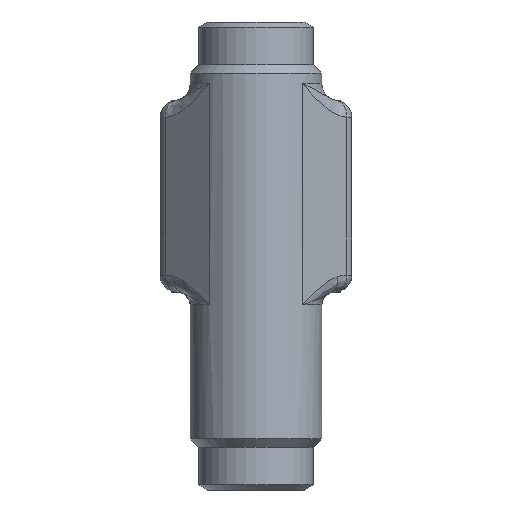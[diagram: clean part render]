
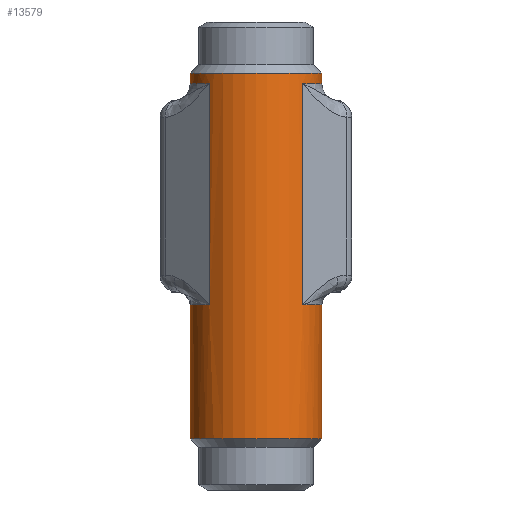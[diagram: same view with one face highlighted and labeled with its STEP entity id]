
A CAD part, front view. The second image highlights one B-rep face of the part: STEP entity #13579.
In plain terms, the highlighted cylindrical face has radius 15.5 mm (diameter 31 mm), a partial arc.
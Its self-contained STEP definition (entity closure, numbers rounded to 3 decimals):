
#16437 = CARTESIAN_POINT ( 'NONE',  ( 15.5, 0., 6.5 ) ) ;
#16578 = ORIENTED_EDGE ( 'NONE', *, *, #3100, .F. ) ;
#16628 = LINE ( 'NONE', #16629, #16630 ) ;
#16629 = CARTESIAN_POINT ( 'NONE',  ( 15.5, 0., -69.245 ) ) ;
#16630 = VECTOR ( 'NONE', #16631, 1000. ) ;
#16631 = DIRECTION ( 'NONE',  ( 0., 0., -1. ) ) ;
#16776 = VERTEX_POINT ( 'NONE', #2817 ) ;
#17004 = LINE ( 'NONE', #17005, #17006 ) ;
#17005 = CARTESIAN_POINT ( 'NONE',  ( -15.5, 0., -45. ) ) ;
#17006 = VECTOR ( 'NONE', #17007, 1000. ) ;
#17007 = DIRECTION ( 'NONE',  ( 0., 0., 1. ) ) ;
#774 = EDGE_CURVE ( 'NONE', #960, #5855, #14391, .T. ) ;
#907 = EDGE_CURVE ( 'NONE', #13567, #9898, #14472, .T. ) ;
#960 = VERTEX_POINT ( 'NONE', #14491 ) ;
#1162 = EDGE_CURVE ( 'NONE', #13567, #16776, #14619, .T. ) ;
#1273 = EDGE_CURVE ( 'NONE', #11527, #1928, #14709, .T. ) ;
#1363 = ORIENTED_EDGE ( 'NONE', *, *, #1273, .T. ) ;
#1670 = ORIENTED_EDGE ( 'NONE', *, *, #13631, .T. ) ;
#1926 = VERTEX_POINT ( 'NONE', #15090 ) ;
#1928 = VERTEX_POINT ( 'NONE', #15092 ) ;
#1929 = ORIENTED_EDGE ( 'NONE', *, *, #4030, .T. ) ;
#2060 = ORIENTED_EDGE ( 'NONE', *, *, #6123, .T. ) ;
#2116 = VERTEX_POINT ( 'NONE', #15254 ) ;
#2476 = CIRCLE ( 'NONE', #2477, 15.5 ) ;
#2477 = AXIS2_PLACEMENT_3D ( 'NONE', #2478, #2479, #2480 ) ;
#2478 = CARTESIAN_POINT ( 'NONE',  ( 0., 0., 4. ) ) ;
#2479 = DIRECTION ( 'NONE',  ( 0., 0., 1. ) ) ;
#2480 = DIRECTION ( 'NONE',  ( 1., 0., 0. ) ) ;
#2543 = ORIENTED_EDGE ( 'NONE', *, *, #16098, .F. ) ;
#2784 = CIRCLE ( 'NONE', #2785, 15.5 ) ;
#2785 = AXIS2_PLACEMENT_3D ( 'NONE', #2786, #2787, #2788 ) ;
#2786 = CARTESIAN_POINT ( 'NONE',  ( 0., 0., 6.5 ) ) ;
#2787 = DIRECTION ( 'NONE',  ( 0., 0., -1. ) ) ;
#2788 = DIRECTION ( 'NONE',  ( 1., 0., 0. ) ) ;
#2817 = CARTESIAN_POINT ( 'NONE',  ( -15.5, 0., -48. ) ) ;
#2901 = VERTEX_POINT ( 'NONE', #16328 ) ;
#3100 = EDGE_CURVE ( 'NONE', #2901, #5855, #16628, .T. ) ;
#3156 = ORIENTED_EDGE ( 'NONE', *, *, #1162, .T. ) ;
#3608 = ORIENTED_EDGE ( 'NONE', *, *, #774, .T. ) ;
#4030 = EDGE_CURVE ( 'NONE', #12136, #1926, #2784, .T. ) ;
#4124 = ORIENTED_EDGE ( 'NONE', *, *, #907, .F. ) ;
#5035 = VERTEX_POINT ( 'NONE', #5679 ) ;
#5126 = ORIENTED_EDGE ( 'NONE', *, *, #5925, .T. ) ;
#5634 = CARTESIAN_POINT ( 'NONE',  ( -10.96, -10.96, -48. ) ) ;
#5673 = FACE_OUTER_BOUND ( 'NONE', #8678, .T. ) ;
#5674 = CYLINDRICAL_SURFACE ( 'NONE', #5675, 15.5 ) ;
#5675 = AXIS2_PLACEMENT_3D ( 'NONE', #5676, #5677, #5678 ) ;
#5676 = CARTESIAN_POINT ( 'NONE',  ( 0., 0., -45. ) ) ;
#5677 = DIRECTION ( 'NONE',  ( 0., 0., 1. ) ) ;
#5678 = DIRECTION ( 'NONE',  ( 1., 0., 0. ) ) ;
#5679 = CARTESIAN_POINT ( 'NONE',  ( -15.5, 0., -69.245 ) ) ;
#5855 = VERTEX_POINT ( 'NONE', #10030 ) ;
#5925 = EDGE_CURVE ( 'NONE', #11134, #9898, #10145, .T. ) ;
#6123 = EDGE_CURVE ( 'NONE', #2116, #12136, #10249, .T. ) ;
#6786 = EDGE_CURVE ( 'NONE', #2901, #11527, #12817, .T. ) ;
#6878 = ORIENTED_EDGE ( 'NONE', *, *, #6786, .T. ) ;
#8276 = LINE ( 'NONE', #8277, #8278 ) ;
#8277 = CARTESIAN_POINT ( 'NONE',  ( -15.5, 0., -69.245 ) ) ;
#8278 = VECTOR ( 'NONE', #8279, 1000. ) ;
#8279 = DIRECTION ( 'NONE',  ( 0., 0., -1. ) ) ;
#8321 = EDGE_CURVE ( 'NONE', #1928, #2116, #2476, .T. ) ;
#8410 = ORIENTED_EDGE ( 'NONE', *, *, #8321, .T. ) ;
#8678 = EDGE_LOOP ( 'NONE', ( #2543, #13637, #3608, #16578, #6878, #1363, #8410, #2060, #1929, #9811, #5126, #4124, #3156, #1670 ) ) ;
#9811 = ORIENTED_EDGE ( 'NONE', *, *, #9955, .F. ) ;
#9898 = VERTEX_POINT ( 'NONE', #14343 ) ;
#9955 = EDGE_CURVE ( 'NONE', #11134, #1926, #14384, .T. ) ;
#10030 = CARTESIAN_POINT ( 'NONE',  ( 15.5, 0., -69.245 ) ) ;
#10145 = CIRCLE ( 'NONE', #10146, 15.5 ) ;
#10146 = AXIS2_PLACEMENT_3D ( 'NONE', #10147, #10148, #10149 ) ;
#10147 = CARTESIAN_POINT ( 'NONE',  ( 0., 0., 4. ) ) ;
#10148 = DIRECTION ( 'NONE',  ( 0., 0., 1. ) ) ;
#10149 = DIRECTION ( 'NONE',  ( 1., 0., 0. ) ) ;
#10249 = LINE ( 'NONE', #10250, #10251 ) ;
#10250 = CARTESIAN_POINT ( 'NONE',  ( 15.5, 0., -45. ) ) ;
#10251 = VECTOR ( 'NONE', #10252, 1000. ) ;
#10252 = DIRECTION ( 'NONE',  ( 0., 0., 1. ) ) ;
#10279 = CARTESIAN_POINT ( 'NONE',  ( -15.5, 0., -79.5 ) ) ;
#10597 = EDGE_CURVE ( 'NONE', #14273, #960, #14768, .T. ) ;
#11134 = VERTEX_POINT ( 'NONE', #15116 ) ;
#11527 = VERTEX_POINT ( 'NONE', #15398 ) ;
#12136 = VERTEX_POINT ( 'NONE', #16437 ) ;
#12817 = CIRCLE ( 'NONE', #12818, 15.5 ) ;
#12818 = AXIS2_PLACEMENT_3D ( 'NONE', #12819, #12820, #12821 ) ;
#12819 = CARTESIAN_POINT ( 'NONE',  ( 0., 0., -48. ) ) ;
#12820 = DIRECTION ( 'NONE',  ( 0., 0., -1. ) ) ;
#12821 = DIRECTION ( 'NONE',  ( 1., 0., 0. ) ) ;
#13567 = VERTEX_POINT ( 'NONE', #5634 ) ;
#13579 = ADVANCED_FACE ( 'NONE', ( #5673 ), #5674, .T. ) ;
#13631 = EDGE_CURVE ( 'NONE', #16776, #5035, #8276, .T. ) ;
#13637 = ORIENTED_EDGE ( 'NONE', *, *, #10597, .T. ) ;
#14273 = VERTEX_POINT ( 'NONE', #10279 ) ;
#14343 = CARTESIAN_POINT ( 'NONE',  ( -10.96, -10.96, 4. ) ) ;
#14384 = LINE ( 'NONE', #14385, #14386 ) ;
#14385 = CARTESIAN_POINT ( 'NONE',  ( -15.5, 0., -45. ) ) ;
#14386 = VECTOR ( 'NONE', #14390, 1000. ) ;
#14390 = DIRECTION ( 'NONE',  ( 0., 0., 1. ) ) ;
#14391 = LINE ( 'NONE', #14392, #14393 ) ;
#14392 = CARTESIAN_POINT ( 'NONE',  ( 15.5, 0., -45. ) ) ;
#14393 = VECTOR ( 'NONE', #14394, 1000. ) ;
#14394 = DIRECTION ( 'NONE',  ( 0., 0., 1. ) ) ;
#14472 = LINE ( 'NONE', #14473, #14474 ) ;
#14473 = CARTESIAN_POINT ( 'NONE',  ( -10.96, -10.96, -45. ) ) ;
#14474 = VECTOR ( 'NONE', #14475, 1000. ) ;
#14475 = DIRECTION ( 'NONE',  ( 0., 0., 1. ) ) ;
#14491 = CARTESIAN_POINT ( 'NONE',  ( 15.5, 0., -79.5 ) ) ;
#14619 = CIRCLE ( 'NONE', #14620, 15.5 ) ;
#14620 = AXIS2_PLACEMENT_3D ( 'NONE', #14621, #14622, #14623 ) ;
#14621 = CARTESIAN_POINT ( 'NONE',  ( 0., 0., -48. ) ) ;
#14622 = DIRECTION ( 'NONE',  ( 0., 0., -1. ) ) ;
#14623 = DIRECTION ( 'NONE',  ( 1., 0., 0. ) ) ;
#14709 = LINE ( 'NONE', #14710, #14711 ) ;
#14710 = CARTESIAN_POINT ( 'NONE',  ( 10.96, -10.96, -45. ) ) ;
#14711 = VECTOR ( 'NONE', #14712, 1000. ) ;
#14712 = DIRECTION ( 'NONE',  ( 0., 0., 1. ) ) ;
#14768 = CIRCLE ( 'NONE', #14772, 15.5 ) ;
#14772 = AXIS2_PLACEMENT_3D ( 'NONE', #14773, #14774, #14775 ) ;
#14773 = CARTESIAN_POINT ( 'NONE',  ( 0., 0., -79.5 ) ) ;
#14774 = DIRECTION ( 'NONE',  ( 0., 0., 1. ) ) ;
#14775 = DIRECTION ( 'NONE',  ( -1., 0., 0. ) ) ;
#15090 = CARTESIAN_POINT ( 'NONE',  ( -15.5, 0., 6.5 ) ) ;
#15092 = CARTESIAN_POINT ( 'NONE',  ( 10.96, -10.96, 4. ) ) ;
#15116 = CARTESIAN_POINT ( 'NONE',  ( -15.5, 0., 4. ) ) ;
#15254 = CARTESIAN_POINT ( 'NONE',  ( 15.5, 0., 4. ) ) ;
#15398 = CARTESIAN_POINT ( 'NONE',  ( 10.96, -10.96, -48. ) ) ;
#16098 = EDGE_CURVE ( 'NONE', #14273, #5035, #17004, .T. ) ;
#16328 = CARTESIAN_POINT ( 'NONE',  ( 15.5, 0., -48. ) ) ;
